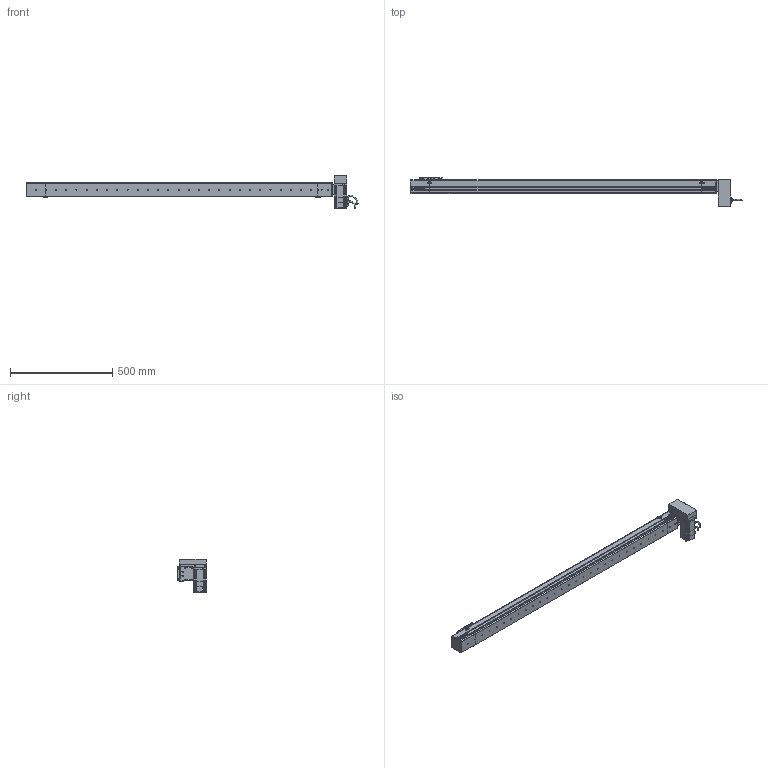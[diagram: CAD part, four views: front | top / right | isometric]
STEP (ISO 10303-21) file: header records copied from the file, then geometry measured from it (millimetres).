
FILE_DESCRIPTION (( 'STEP AP214' ), '1' );
FILE_NAME ('S07 CBN LU S1400.STEP', '2010-06-29T10:50:01', ( 'Conseil Régional Haute-Normandie' ), ( 'Conseil Régional Haute-Normandie' ), 'SwSTEP 2.0', 'SolidWorks 2010', '' );
FILE_SCHEMA (( 'AUTOMOTIVE_DESIGN' ));
Length unit declared in the file: millimetre
Products named in the file (31): Couvercle Tail_Default; Corp Tail_Default; Tail S07 Tail_Default; Couvercle S07 S1400_Default; Conecteur 60BLDC_Default; Axe 60BLDC_Default; P4_Default; Corp S07 S1400_Default; VisM3_Default; Conecteur2 60BLDC_Default; P3 90A_Default; vis M5 L8_Default; support chariot_Default; chariot_Default; Chariot S07_Default; plaque de serrage Tail_Default; vis M5 L15_Default; Plaque de bout Tail_Default; Corp LU_Default; Head LU_Default; S07 CBN LU S1400; Cache Support Moteur LU_Default; plaque de serrage LU_Default; Plaque de bout LU_Default; Support Moteur LU_Default; Rondelle de Serrage LU_Default; Couvercle LU_Default; P2 90A_Default; P1_Default; 60BLDC90A-640_Default
Assembly tree (71 placements, depth 4):
  S07 CBN LU S1400
    Corp S07 S1400_Default
      Corp S07 S1400_Default
      Couvercle S07 S1400_Default
    Head LU_Default
      Couvercle LU_Default
      Cache Support Moteur LU_Default
      Corp LU_Default
      vis M5 L15_Default  x16
      Rondelle de Serrage LU_Default  x3
      60BLDC90A-640_Default
        P3 90A_Default
        P4_Default
        VisM3_Default  x12
        Conecteur2 60BLDC_Default
        Conecteur 60BLDC_Default
        P2 90A_Default
        P1_Default
        Axe 60BLDC_Default
      Support Moteur LU_Default
      Plaque de bout LU_Default
      plaque de serrage LU_Default
    Chariot S07_Default
      chariot_Default
      vis M5 L8_Default  x8
      support chariot_Default
    Tail S07 Tail_Default
      vis M5 L15_Default  x6
      plaque de serrage Tail_Default
      Plaque de bout Tail_Default
      Couvercle Tail_Default
      Corp Tail_Default
Bounding box: 1625.7 x 142 x 162 mm (x, y, z)
Volume: 7968310 mm3; surface area: 930213.7 mm2
Topology: 108 solids, 108 shells, 3934 faces, 9674 edges, 6228 vertices
Faces by surface type: plane 2264, bspline 756, cylinder 703, torus 112, cone 95, sphere 4
Entity records: 154473 total; most frequent: CARTESIAN_POINT 79773, ORIENTED_EDGE 14868, DIRECTION 11187, EDGE_CURVE 7434, VERTEX_POINT 4913, LINE 4801, VECTOR 4801, EDGE_LOOP 3205
